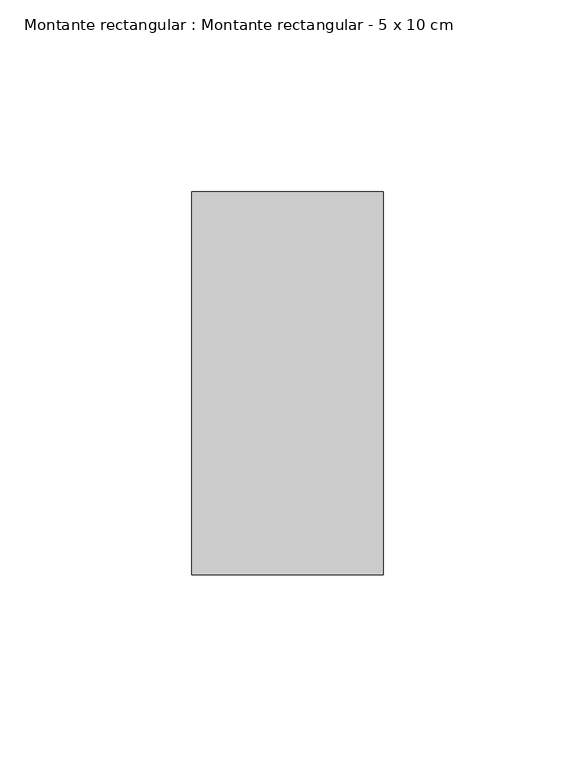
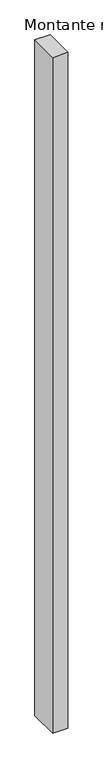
"""IFC4 building model written with IfcOpenShell, lengths in millimetres: member geometry, Montante rectangular : Montante rectangular - 5 x 10 cm."""

from ifc_helpers import new_model, si_unit, frame, origin, place, context, project, spatial, polyline, outline, extrude, source, transform, mapped, element, save


def montante_rectangular_montante_rectangular_5_x_10_cm_8ce6853b(model_context):
    return source(origin(), model_context, "Body", "SweptSolid", [
        extrude(outline(polyline([(25.0, 50.0), (25.0, -50.0), (-25.0, -50.0), (-25.0, 50.0), (25.0, 50.0)])), frame((0.0, 0.0, -2330.0), z_axis=(0.0, 0.0, 1.0), x_axis=(1.0, 0.0, 0.0)), (0.0, 0.0, 1.0), 2330.0),
    ])


if __name__ == "__main__":
    model = new_model("IFC4")
    model_context = context("Model", 3, world=origin())
    ifc_project = project(units=[si_unit("LENGTHUNIT", "METRE", prefix="MILLI")], contexts=[model_context])
    site = spatial("IfcSite", under=ifc_project)
    building = spatial("IfcBuilding", under=site)
    placement = place(None, origin())
    montante_rectangular_montante_rectangular_5_x_10_cm_shape = montante_rectangular_montante_rectangular_5_x_10_cm_8ce6853b(model_context)
    element("IfcMember", 1, ObjectType="Montante rectangular : Montante rectangular - 5 x 10 cm", at=placement, inside=building, context=model_context, shape_type="MappedRepresentation", body=[
        mapped(montante_rectangular_montante_rectangular_5_x_10_cm_shape, transform((0.0, 0.0, 0.0), x_axis=(1.0, 0.0, 0.0), y_axis=(0.0, 1.0, 0.0), z_axis=(0.0, 0.0, 1.0))),
    ])
    save(model, "model.ifc")
